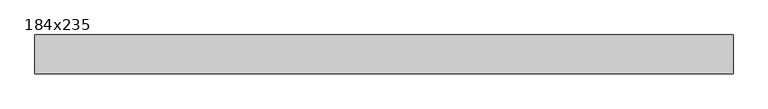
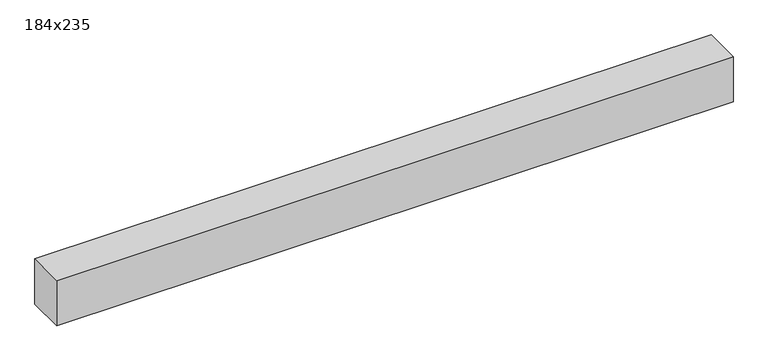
"""IFC4 building model written with IfcOpenShell, lengths in millimetres: beam geometry, Poutre - Bois d'oeuvre : 184x235."""

from ifc_helpers import new_model, si_unit, frame, origin, place, context, project, spatial, polyline, outline, extrude, source, transform, mapped, element, save


def beam_184x235_2aa7d092(model_context):
    return source(origin(), model_context, "Body", "SweptSolid", [
        extrude(outline(polyline([(1709.0, 95.25), (1709.0, -95.25), (-1709.0, -95.25), (-1709.0, 95.25), (1709.0, 95.25)])), frame((0.0, 0.0, -120.65), z_axis=(0.0, 0.0, 1.0), x_axis=(1.0, 0.0, 0.0)), (0.0, 0.0, 1.0), 241.3),
    ])


if __name__ == "__main__":
    model = new_model("IFC4")
    model_context = context("Model", 3, world=origin())
    ifc_project = project(units=[si_unit("LENGTHUNIT", "METRE", prefix="MILLI")], contexts=[model_context])
    site = spatial("IfcSite", under=ifc_project)
    building = spatial("IfcBuilding", under=site)
    placement = place(None, origin())
    beam_184x235_shape = beam_184x235_2aa7d092(model_context)
    element("IfcBeam", 1, ObjectType="Poutre - Bois d'oeuvre : 184x235", at=placement, inside=building, context=model_context, shape_type="MappedRepresentation", body=[
        mapped(beam_184x235_shape, transform((0.0, 0.0, 0.0), x_axis=(1.0, 0.0, 0.0), y_axis=(0.0, 1.0, 0.0), z_axis=(0.0, 0.0, 1.0))),
    ])
    save(model, "model.ifc")
